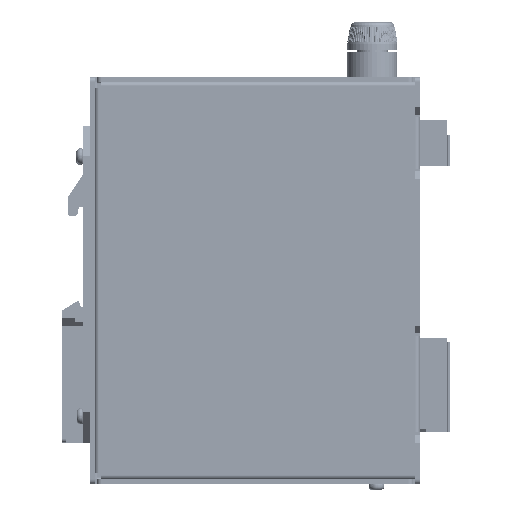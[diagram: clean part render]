
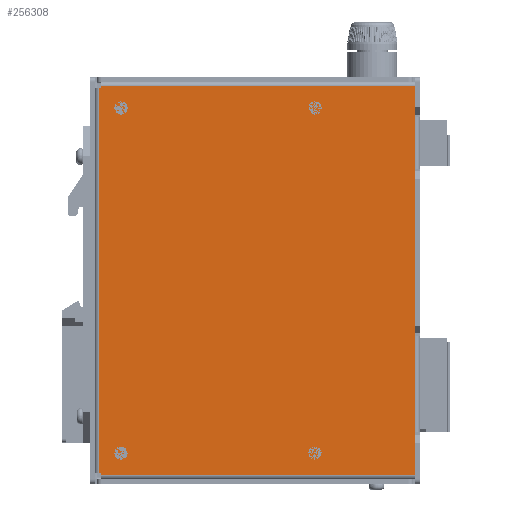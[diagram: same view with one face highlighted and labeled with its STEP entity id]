
A CAD part, left-side view. The second image highlights one B-rep face of the part: STEP entity #256308.
In plain terms, the highlighted planar face has unit normal (-1, 0, 0).
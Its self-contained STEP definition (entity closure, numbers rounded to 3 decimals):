
#254768=CARTESIAN_POINT('',(0.,108.077,8.362));
#254769=VERTEX_POINT('',#254768);
#254777=CARTESIAN_POINT('',(0.,108.077,137.902));
#254778=VERTEX_POINT('',#254777);
#254779=CARTESIAN_POINT('',(0.,108.077,8.362));
#254780=DIRECTION('',(0.,0.,1.));
#254781=VECTOR('',#254780,129.54);
#254782=LINE('',#254779,#254781);
#254783=EDGE_CURVE('',#254769,#254778,#254782,.T.);
#254810=CARTESIAN_POINT('',(-0.,1.524,7.6));
#254811=VERTEX_POINT('',#254810);
#254819=CARTESIAN_POINT('',(0.,107.315,7.6));
#254820=VERTEX_POINT('',#254819);
#254821=CARTESIAN_POINT('',(-0.,1.524,7.6));
#254822=DIRECTION('',(0.,1.,0.));
#254823=VECTOR('',#254822,105.791);
#254824=LINE('',#254821,#254823);
#254825=EDGE_CURVE('',#254811,#254820,#254824,.T.);
#254978=CARTESIAN_POINT('',(0.,1.524,128.377));
#254979=VERTEX_POINT('',#254978);
#254987=CARTESIAN_POINT('',(0.,1.524,110.597));
#254988=VERTEX_POINT('',#254987);
#254989=CARTESIAN_POINT('',(0.,1.524,110.597));
#254990=DIRECTION('',(0.,-0.,1.));
#254991=VECTOR('',#254990,17.78);
#254992=LINE('',#254989,#254991);
#254993=EDGE_CURVE('',#254988,#254979,#254992,.T.);
#255020=CARTESIAN_POINT('',(-0.,1.524,54.399));
#255021=VERTEX_POINT('',#255020);
#255029=CARTESIAN_POINT('',(-0.,1.524,22.014));
#255030=VERTEX_POINT('',#255029);
#255031=CARTESIAN_POINT('',(-0.,1.524,54.399));
#255032=DIRECTION('',(-0.,0.,-1.));
#255033=VECTOR('',#255032,32.385);
#255034=LINE('',#255031,#255033);
#255035=EDGE_CURVE('',#255021,#255030,#255034,.T.);
#256241=CARTESIAN_POINT('',(0.,55.563,73.132));
#256242=DIRECTION('',(1.,-0.,-0.));
#256243=DIRECTION('',(-0.,0.,-1.));
#256244=AXIS2_PLACEMENT_3D('',#256241,#256242,#256243);
#256245=PLANE('',#256244);
#256246=ORIENTED_EDGE('',*,*,#255035,.F.);
#256247=CARTESIAN_POINT('',(-0.,1.524,54.399));
#256248=DIRECTION('',(0.,-0.,1.));
#256249=VECTOR('',#256248,56.198);
#256250=LINE('',#256247,#256249);
#256251=EDGE_CURVE('',#255021,#254988,#256250,.T.);
#256252=ORIENTED_EDGE('',*,*,#256251,.T.);
#256253=ORIENTED_EDGE('',*,*,#254993,.T.);
#256254=CARTESIAN_POINT('',(0.,1.524,138.664));
#256255=VERTEX_POINT('',#256254);
#256256=CARTESIAN_POINT('',(0.,1.524,128.377));
#256257=DIRECTION('',(0.,-0.,1.));
#256258=VECTOR('',#256257,10.287);
#256259=LINE('',#256256,#256258);
#256260=EDGE_CURVE('',#254979,#256255,#256259,.T.);
#256261=ORIENTED_EDGE('',*,*,#256260,.T.);
#256262=CARTESIAN_POINT('',(0.,107.315,138.664));
#256263=VERTEX_POINT('',#256262);
#256264=CARTESIAN_POINT('',(0.,107.315,138.664));
#256265=DIRECTION('',(-0.,-1.,0.));
#256266=VECTOR('',#256265,105.791);
#256267=LINE('',#256264,#256266);
#256268=EDGE_CURVE('',#256263,#256255,#256267,.T.);
#256269=ORIENTED_EDGE('',*,*,#256268,.F.);
#256270=CARTESIAN_POINT('',(0.,107.315,137.902));
#256271=VERTEX_POINT('',#256270);
#256272=CARTESIAN_POINT('',(0.,107.315,138.664));
#256273=DIRECTION('',(-0.,0.,-1.));
#256274=VECTOR('',#256273,0.762);
#256275=LINE('',#256272,#256274);
#256276=EDGE_CURVE('',#256263,#256271,#256275,.T.);
#256277=ORIENTED_EDGE('',*,*,#256276,.T.);
#256278=CARTESIAN_POINT('',(0.,107.315,137.902));
#256279=DIRECTION('',(0.,1.,-0.));
#256280=VECTOR('',#256279,0.762);
#256281=LINE('',#256278,#256280);
#256282=EDGE_CURVE('',#256271,#254778,#256281,.T.);
#256283=ORIENTED_EDGE('',*,*,#256282,.T.);
#256284=ORIENTED_EDGE('',*,*,#254783,.F.);
#256285=CARTESIAN_POINT('',(0.,107.315,8.362));
#256286=VERTEX_POINT('',#256285);
#256287=CARTESIAN_POINT('',(0.,108.077,8.362));
#256288=DIRECTION('',(-0.,-1.,0.));
#256289=VECTOR('',#256288,0.762);
#256290=LINE('',#256287,#256289);
#256291=EDGE_CURVE('',#254769,#256286,#256290,.T.);
#256292=ORIENTED_EDGE('',*,*,#256291,.T.);
#256293=CARTESIAN_POINT('',(0.,107.315,8.362));
#256294=DIRECTION('',(-0.,0.,-1.));
#256295=VECTOR('',#256294,0.762);
#256296=LINE('',#256293,#256295);
#256297=EDGE_CURVE('',#256286,#254820,#256296,.T.);
#256298=ORIENTED_EDGE('',*,*,#256297,.T.);
#256299=ORIENTED_EDGE('',*,*,#254825,.F.);
#256300=CARTESIAN_POINT('',(-0.,1.524,7.6));
#256301=DIRECTION('',(0.,-0.,1.));
#256302=VECTOR('',#256301,14.415);
#256303=LINE('',#256300,#256302);
#256304=EDGE_CURVE('',#254811,#255030,#256303,.T.);
#256305=ORIENTED_EDGE('',*,*,#256304,.T.);
#256306=EDGE_LOOP('',(#256246,#256252,#256253,#256261,#256269,#256277,#256283,#256284,#256292,#256298,#256299,#256305));
#256307=FACE_BOUND('',#256306,.T.);
#256308=ADVANCED_FACE('',(#256307),#256245,.F.);
